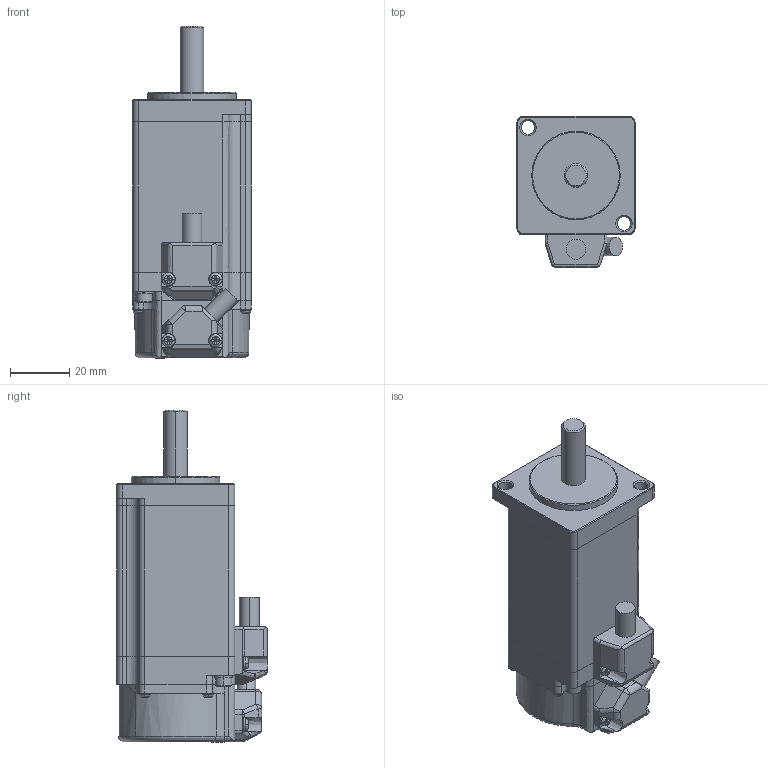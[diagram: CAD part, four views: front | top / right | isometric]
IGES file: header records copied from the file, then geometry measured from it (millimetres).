
Start section: Elysium IGES Interface
Global section: file name: 79H\\nas63\design\04MC研\saka\3DCAD\TBL-i2カタログまとめ\IGSデータ\TS4604_BK無.igs; native system: Creo Elements/Direct Modeling 17.0F  20-Aug-2012; preprocessor: Creo Element/Direct IGES_3D V2.2; author: Unknown; organization: Unknown; date: 20161222.161501; units: millimetre
Bounding box: 40 x 51.1 x 112.5 mm (x, y, z)
Volume: 135193.5 mm3; surface area: 18840.9 mm2
Topology: 1 solids, 1 shells, 562 faces, 1297 edges, 732 vertices
Faces by surface type: bspline 562
